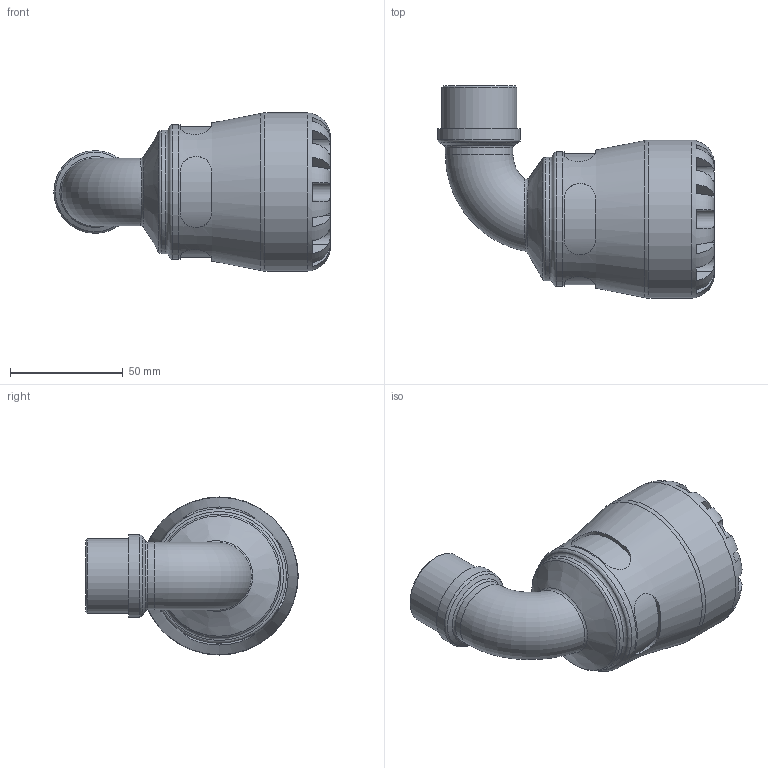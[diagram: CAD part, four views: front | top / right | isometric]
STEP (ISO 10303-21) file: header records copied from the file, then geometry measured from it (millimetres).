
FILE_DESCRIPTION(/* description */ ('PLASSON 90° ELBOW WITH MALE INTEGRAL BRASS 40X1" SERIES 1'),/* implementation_level */ '2;1');
FILE_NAME(/* name */ 'C:\Dropbox\KIMPROJECTS-Inventor\99-16-3568-Processing\1077\107700040010_197700040010.ipt.stp',/* time_stamp */ '2017-01-22T11:54:32+02:00',/* author */ ('KIM'),/* organization */ (''),/* preprocessor_version */ 'ST-DEVELOPER v15.6',/* originating_system */ 'Autodesk Inventor 2015',/* authorisation */ '');
FILE_SCHEMA (('AUTOMOTIVE_DESIGN { 1 0 10303 214 3 1 1 }'));
Length unit declared in the file: millimetre
Products named in the file (1): 107700040010_197700040010
Bounding box: 122.29 x 94 x 70 mm (x, y, z)
Volume: 182637.1 mm3; surface area: 44469.6 mm2
Topology: 1 solids, 1 shells, 112 faces, 275 edges, 170 vertices
Faces by surface type: plane 60, cylinder 37, torus 9, cone 3, bspline 3
Full cylindrical faces by diameter (mm): 23.274 x2, 29.924 x1, 33.249 x1, 36.574 x1, 40 x1, 54.6 x1, 59.5 x1, 70 x1
Entity records: 4363 total; most frequent: CARTESIAN_POINT 1787, DIRECTION 495, ORIENTED_EDGE 492, EDGE_CURVE 246, AXIS2_PLACEMENT_3D 207, VERTEX_POINT 163, EDGE_LOOP 141, STYLED_ITEM 113
